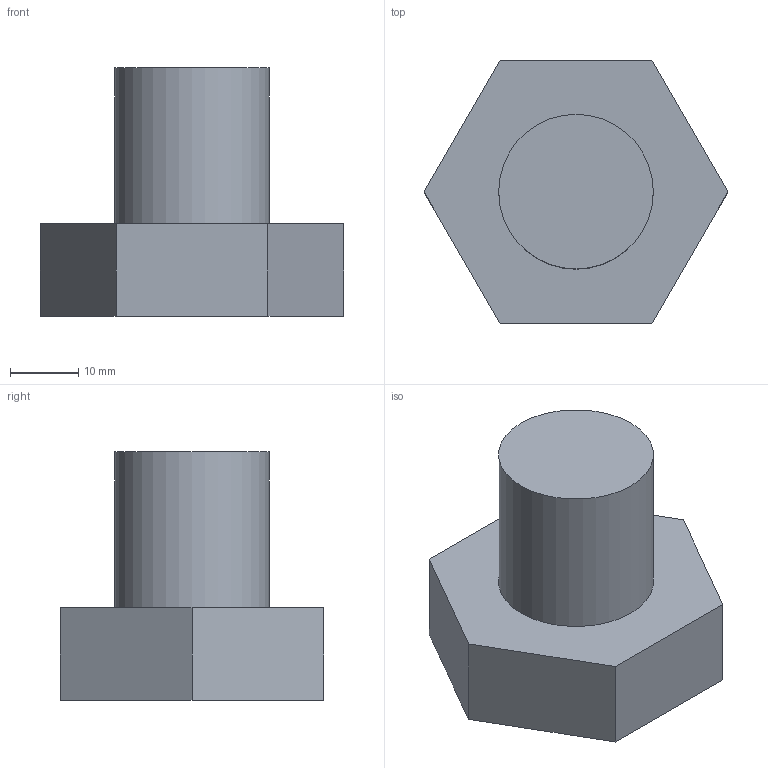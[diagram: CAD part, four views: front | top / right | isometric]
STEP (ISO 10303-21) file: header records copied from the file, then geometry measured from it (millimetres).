
FILE_DESCRIPTION(('Mechanical CAD reference from nasji.com'),'2;1');
FILE_NAME('NASJI.step','',(''),(''),'','NASJI distribution','');
FILE_SCHEMA(('AUTOMOTIVE_DESIGN { 1 0 10303 214 1 1 1 1 }'));
Length unit declared in the file: millimetre
Products named in the file (1): Open CASCADE STEP translator 7.8 156
Bounding box: 44.42 x 38.47 x 36.3 mm (x, y, z)
Volume: 26447.7 mm3; surface area: 5981 mm2
Topology: 1 solids, 1 shells, 10 faces, 21 edges, 14 vertices
Faces by surface type: plane 9, cylinder 1
Full cylindrical faces by diameter (mm): 22.6 x1
Entity records: 550 total; most frequent: CARTESIAN_POINT 88, DIRECTION 87, LINE 59, VECTOR 59, ORIENTED_EDGE 42, PCURVE 42, DEFINITIONAL_REPRESENTATION 42, EDGE_CURVE 21
